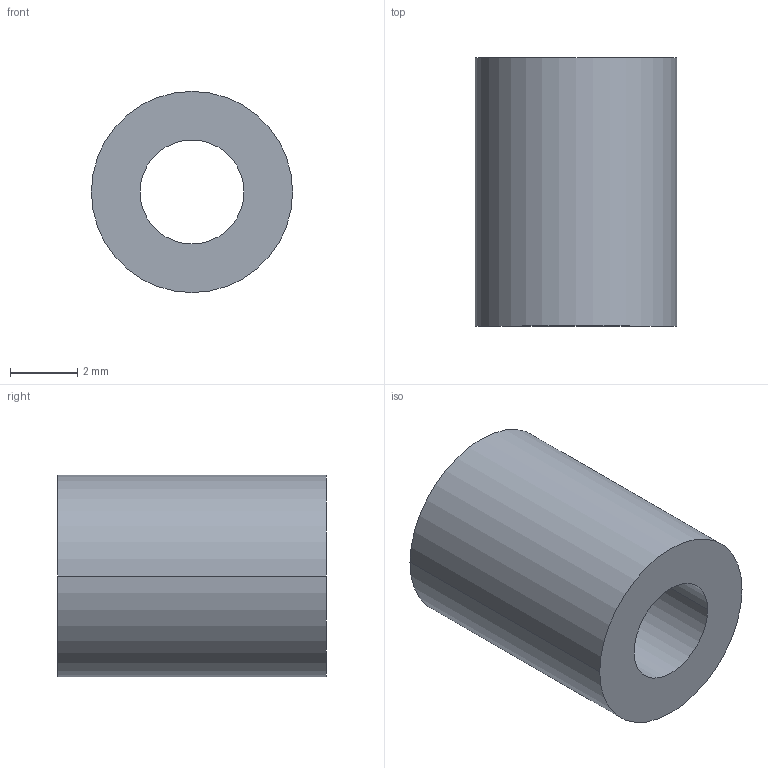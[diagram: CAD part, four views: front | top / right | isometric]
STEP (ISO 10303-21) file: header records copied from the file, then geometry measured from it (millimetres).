
FILE_DESCRIPTION (( 'STEP AP203' ), '1' );
FILE_NAME ('30800.WPP6B3.1.step', '2019-01-23T22:18:19', ( '' ), ( '' ), 'SwSTEP 2.0', 'SolidWorks 2017', '' );
FILE_SCHEMA (( 'CONFIG_CONTROL_DESIGN' ));
Length unit declared in the file: millimetre
Products named in the file (1): 30800.WPP6B3.1
Bounding box: 6 x 8 x 6 mm (x, y, z)
Volume: 163.4 mm3; surface area: 266.4 mm2
Topology: 1 solids, 1 shells, 8 faces, 16 edges, 10 vertices
Faces by surface type: cylinder 4, torus 2, plane 2
Entity records: 297 total; most frequent: DIRECTION 46, CARTESIAN_POINT 35, ORIENTED_EDGE 32, AXIS2_PLACEMENT_3D 21, EDGE_CURVE 16, CIRCLE 12, VERTEX_POINT 10, EDGE_LOOP 10
